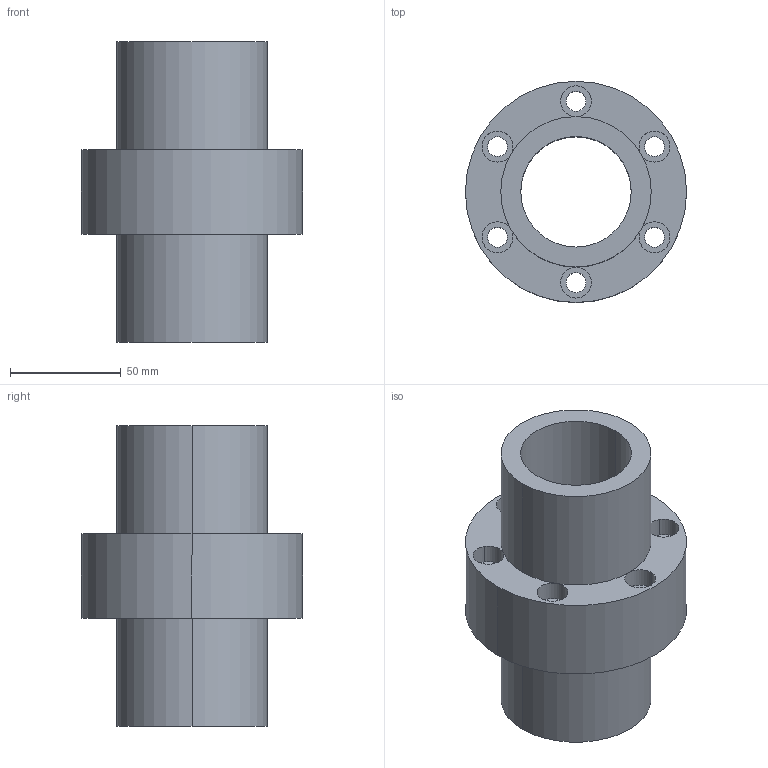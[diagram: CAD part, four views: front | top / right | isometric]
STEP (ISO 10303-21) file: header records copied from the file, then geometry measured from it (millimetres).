
FILE_DESCRIPTION((''),'2;1');
FILE_NAME('50-6T4','2008-04-07T',('yanyu'),(''),'PRO/ENGINEER BY PARAMETRIC TECHNOLOGY CORPORATION, 2005070','PRO/ENGINEER BY PARAMETRIC TECHNOLOGY CORPORATION, 2005070','');
FILE_SCHEMA(('CONFIG_CONTROL_DESIGN'));
Length unit declared in the file: millimetre
Products named in the file (1): 50-6T4
Bounding box: 100 x 100 x 136 mm (x, y, z)
Volume: 368209.6 mm3; surface area: 72501.7 mm2
Topology: 1 solids, 1 shells, 42 faces, 112 edges, 74 vertices
Faces by surface type: cylinder 32, plane 10
Entity records: 1426 total; most frequent: DIRECTION 276, CARTESIAN_POINT 228, ORIENTED_EDGE 224, AXIS2_PLACEMENT_3D 122, EDGE_CURVE 112, CIRCLE 80, VERTEX_POINT 74, EDGE_LOOP 58
